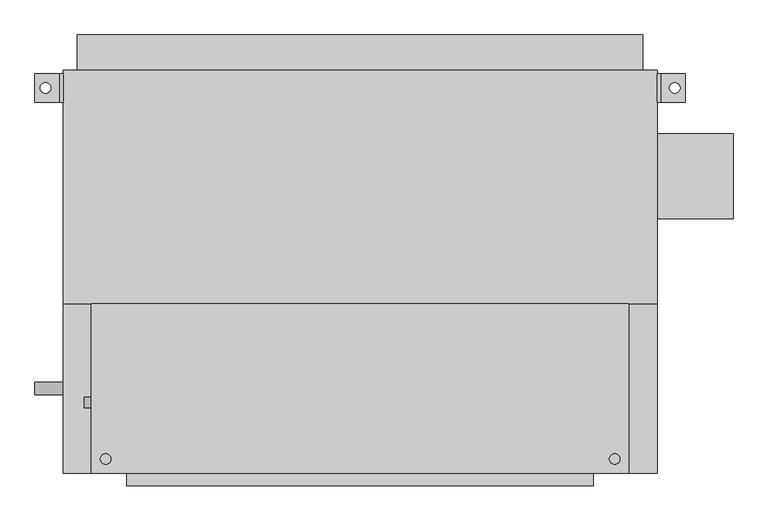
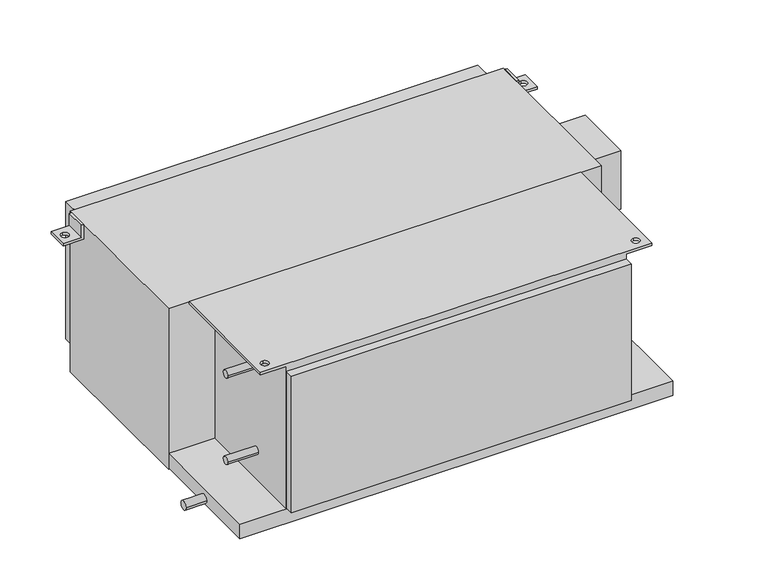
"""IFC4 building model written with IfcOpenShell, lengths in millimetres: proxy geometry, Concealed_High_Capacity_Horizontal_Fan_Coil_Unit_With_Plenum_-_42DCA_-_CARRIER_-_2-Pipe_Cool-EHeat_LH_2022 : Size 14 - 277v/60Hz/1Ph - 6 Row 10.0kW."""

from ifc_helpers import new_model, si_unit, point, frame, frame_2d, origin, place, context, project, spatial, polyline, circle_curve, trimmed, segment, composite_curve, outline, extrude, source, transform, mapped, element, save
from ifc_brep_helpers import plane_surface, revolved_surface, advanced_brep


def mechanical_equipment_c1538c46(model_context):
    return source(origin(), model_context, "Body", "SolidModel", [
        advanced_brep(
        [(-381.0, 327.025, -38.1), (-431.8, 327.025, -38.1), (-431.8, 327.025, -31.75), (-387.35, 327.025, -31.75), (-387.35, 327.025, 0.0), (-381.0, 327.025, 0.0), (-381.0, 276.225, -38.1), (-381.0, 276.225, 0.0), (-387.35, 276.225, 0.0), (-387.35, 276.225, -31.75), (-431.8, 276.225, -31.75), (-431.8, 276.225, -38.1), (-412.75, 292.1, -38.1), (-412.75, 311.15, -38.1), (-412.75, 311.15, -31.75), (-412.75, 292.1, -31.75)],
        [
            (0, 1),
            (1, 2),
            (2, 3),
            (3, 4),
            (4, 5),
            (5, 0),
            (6, 7),
            (7, 8),
            (8, 9),
            (9, 10),
            (10, 11),
            (11, 6),
            (0, 6),
            (11, 1),
            (12, 13, circle_curve(frame((-412.75, 301.625, -38.1), z_axis=(0.0, 0.0, 1.0), x_axis=(0.0, -1.0, 0.0)), 9.525)),
            (13, 12, circle_curve(frame((-412.75, 301.625, -38.1), z_axis=(0.0, 0.0, 1.0), x_axis=(0.0, -1.0, 0.0)), 9.525)),
            (10, 2),
            (9, 3),
            (14, 15, circle_curve(frame((-412.75, 301.625, -31.75), z_axis=(0.0, 0.0, -1.0), x_axis=(0.0, -1.0, 0.0)), 9.525)),
            (15, 14, circle_curve(frame((-412.75, 301.625, -31.75), z_axis=(0.0, 0.0, -1.0), x_axis=(0.0, -1.0, 0.0)), 9.525)),
            (8, 4),
            (7, 5),
            (14, 13),
            (12, 15),
        ],
        [
            plane_surface(frame((-381.0, 327.025, -38.1), z_axis=(0.0, 1.0, 0.0), x_axis=(-1.0, 0.0, 0.0))),
            plane_surface(frame((-381.0, 276.225, -38.1), z_axis=(0.0, -1.0, 0.0), x_axis=(1.0, 0.0, 0.0))),
            plane_surface(frame((-381.0, 327.025, -38.1), z_axis=(0.0, 0.0, -1.0), x_axis=(0.0, -1.0, 0.0))),
            plane_surface(frame((-431.8, 327.025, -38.1), z_axis=(-1.0, 0.0, 0.0), x_axis=(0.0, -1.0, 0.0))),
            plane_surface(frame((-431.8, 327.025, -31.75), z_axis=(0.0, 0.0, 1.0), x_axis=(0.0, -1.0, 0.0))),
            plane_surface(frame((-387.35, 327.025, -31.75), z_axis=(-1.0, 0.0, 0.0), x_axis=(0.0, -1.0, 0.0))),
            plane_surface(frame((-387.35, 327.025, 0.0), z_axis=(0.0, 0.0, 1.0), x_axis=(0.0, -1.0, 0.0))),
            plane_surface(frame((-381.0, 327.025, 0.0), z_axis=(1.0, 0.0, 0.0), x_axis=(0.0, -1.0, 0.0))),
            revolved_surface(polyline([(-412.75, 292.1, -38.1), (-412.75, 292.1, -31.75)]), (-412.75, 301.625, -31.75), (0.0, 0.0, -1.0)),
        ],
        [
            (0, [[1, 2, 3, 4, 5, 6]]),
            (1, [[7, 8, 9, 10, 11, 12]]),
            (2, [[-1, 13, -12, 14], [15, 16]]),
            (3, [[-2, -14, -11, 17]]),
            (4, [[-3, -17, -10, 18], [19, 20]]),
            (5, [[-4, -18, -9, 21]]),
            (6, [[-5, -21, -8, 22]]),
            (7, [[-6, -22, -7, -13]]),
            (8, [[23, -15, 24, -19]]),
            (8, [[-23, -20, -24, -16]]),
        ],
    ),
        advanced_brep(
        [(685.8, 327.025, -38.1), (685.8, 327.025, 0.0), (692.15, 327.025, 0.0), (692.15, 327.025, -31.75), (736.6, 327.025, -31.75), (736.6, 327.025, -38.1), (685.8, 276.225, -38.1), (736.6, 276.225, -38.1), (736.6, 276.225, -31.75), (692.15, 276.225, -31.75), (692.15, 276.225, 0.0), (685.8, 276.225, 0.0), (717.55, 311.15, -31.75), (717.55, 292.1, -31.75), (717.55, 292.1, -38.1), (717.55, 311.15, -38.1)],
        [
            (0, 1),
            (1, 2),
            (2, 3),
            (3, 4),
            (4, 5),
            (5, 0),
            (6, 7),
            (7, 8),
            (8, 9),
            (9, 10),
            (10, 11),
            (11, 6),
            (0, 6),
            (11, 1),
            (10, 2),
            (9, 3),
            (8, 4),
            (12, 13, circle_curve(frame((717.55, 301.625, -31.75), z_axis=(0.0, 0.0, -1.0), x_axis=(0.0, -1.0, 0.0)), 9.525)),
            (13, 12, circle_curve(frame((717.55, 301.625, -31.75), z_axis=(0.0, 0.0, -1.0), x_axis=(0.0, -1.0, 0.0)), 9.525)),
            (7, 5),
            (14, 15, circle_curve(frame((717.55, 301.625, -38.1), z_axis=(0.0, 0.0, 1.0), x_axis=(0.0, -1.0, 0.0)), 9.525)),
            (15, 14, circle_curve(frame((717.55, 301.625, -38.1), z_axis=(0.0, 0.0, 1.0), x_axis=(0.0, -1.0, 0.0)), 9.525)),
            (12, 15),
            (14, 13),
        ],
        [
            plane_surface(frame((-381.0, 327.025, -38.1), z_axis=(0.0, 1.0, 0.0), x_axis=(-1.0, 0.0, 0.0))),
            plane_surface(frame((-381.0, 276.225, -38.1), z_axis=(0.0, -1.0, 0.0), x_axis=(1.0, 0.0, 0.0))),
            plane_surface(frame((685.8, 327.025, -38.1), z_axis=(-1.0, 0.0, 0.0), x_axis=(0.0, -1.0, 0.0))),
            plane_surface(frame((685.8, 327.025, 0.0), z_axis=(0.0, 0.0, 1.0), x_axis=(0.0, -1.0, 0.0))),
            plane_surface(frame((692.15, 327.025, 0.0), z_axis=(1.0, 0.0, 0.0), x_axis=(0.0, -1.0, 0.0))),
            plane_surface(frame((692.15, 327.025, -31.75), z_axis=(0.0, 0.0, 1.0), x_axis=(0.0, -1.0, 0.0))),
            plane_surface(frame((736.6, 327.025, -31.75), z_axis=(1.0, 0.0, 0.0), x_axis=(0.0, -1.0, 0.0))),
            plane_surface(frame((736.6, 327.025, -38.1), z_axis=(0.0, 0.0, -1.0), x_axis=(0.0, -1.0, 0.0))),
            revolved_surface(polyline([(717.55, 292.1, -38.1), (717.55, 292.1, -31.75)]), (717.55, 301.625, -31.75), (0.0, 0.0, -1.0)),
        ],
        [
            (0, [[1, 2, 3, 4, 5, 6]]),
            (1, [[7, 8, 9, 10, 11, 12]]),
            (2, [[-1, 13, -12, 14]]),
            (3, [[-2, -14, -11, 15]]),
            (4, [[-3, -15, -10, 16]]),
            (5, [[-4, -16, -9, 17], [18, 19]]),
            (6, [[-5, -17, -8, 20]]),
            (7, [[-6, -20, -7, -13], [21, 22]]),
            (8, [[23, -21, 24, -18]]),
            (8, [[-23, -19, -24, -22]]),
        ],
    ),
        advanced_brep(
        [(-330.2, -85.725, -6.35), (-266.7, -85.725, -6.35), (-266.7, -390.525, -6.35), (-330.2, -390.525, -6.35), (-304.8, -355.6, -6.35), (-304.8, -374.65, -6.35), (635.0, -85.725, -6.35), (635.0, -390.525, -6.35), (571.5, -390.525, -6.35), (571.5, -85.725, -6.35), (609.6, -355.6, -6.35), (609.6, -374.65, -6.35), (-330.2, -85.725, 0.0), (-330.2, -390.525, 0.0), (635.0, -390.525, 0.0), (635.0, -85.725, 0.0), (-304.8, -374.65, 0.0), (-304.8, -355.6, 0.0), (609.6, -374.65, 0.0), (609.6, -355.6, 0.0), (-266.7, -390.525, -377.825), (571.5, -390.525, -377.825), (571.5, -85.725, -377.825), (-266.7, -85.725, -377.825)],
        [
            (0, 1),
            (1, 2),
            (2, 3),
            (3, 0),
            (4, 5, circle_curve(frame((-304.8, -365.125, -6.35), z_axis=(0.0, 0.0, 1.0), x_axis=(0.0, 1.0, 0.0)), 9.525)),
            (5, 4, circle_curve(frame((-304.8, -365.125, -6.35), z_axis=(0.0, 0.0, 1.0), x_axis=(0.0, 1.0, 0.0)), 9.525)),
            (6, 7),
            (7, 8),
            (8, 9),
            (9, 6),
            (10, 11, circle_curve(frame((609.6, -365.125, -6.35), z_axis=(0.0, 0.0, 1.0), x_axis=(0.0, 1.0, 0.0)), 9.525)),
            (11, 10, circle_curve(frame((609.6, -365.125, -6.35), z_axis=(0.0, 0.0, 1.0), x_axis=(0.0, 1.0, 0.0)), 9.525)),
            (12, 13),
            (13, 14),
            (14, 15),
            (15, 12),
            (16, 17, circle_curve(frame((-304.8, -365.125, 0.0), z_axis=(0.0, 0.0, -1.0), x_axis=(0.0, 1.0, 0.0)), 9.525)),
            (17, 16, circle_curve(frame((-304.8, -365.125, 0.0), z_axis=(0.0, 0.0, -1.0), x_axis=(0.0, 1.0, 0.0)), 9.525)),
            (18, 19, circle_curve(frame((609.6, -365.125, 0.0), z_axis=(0.0, 0.0, -1.0), x_axis=(0.0, 1.0, 0.0)), 9.525)),
            (19, 18, circle_curve(frame((609.6, -365.125, 0.0), z_axis=(0.0, 0.0, -1.0), x_axis=(0.0, 1.0, 0.0)), 9.525)),
            (3, 13),
            (12, 0),
            (2, 20),
            (20, 21),
            (21, 8),
            (7, 14),
            (15, 6),
            (9, 22),
            (22, 23),
            (23, 1),
            (22, 21),
            (20, 23),
            (16, 5),
            (4, 17),
            (18, 11),
            (10, 19),
        ],
        [
            plane_surface(frame((-330.2, -85.725, -6.35), z_axis=(0.0, 0.0, -1.0), x_axis=(0.0, 1.0, 0.0))),
            plane_surface(frame((-330.2, -85.725, 0.0), z_axis=(0.0, 0.0, 1.0), x_axis=(0.0, -1.0, 0.0))),
            plane_surface(frame((-330.2, -85.725, 0.0), z_axis=(-1.0, 0.0, 0.0), x_axis=(0.0, 0.0, -1.0))),
            plane_surface(frame((-330.2, -390.525, 0.0), z_axis=(0.0, -1.0, 0.0), x_axis=(0.0, 0.0, -1.0))),
            plane_surface(frame((-266.7, -85.725, 0.0), z_axis=(0.0, 1.0, 0.0), x_axis=(0.0, 0.0, -1.0))),
            plane_surface(frame((635.0, -390.525, 0.0), z_axis=(1.0, 0.0, 0.0), x_axis=(0.0, 0.0, -1.0))),
            plane_surface(frame((-266.7, -85.725, -377.825), z_axis=(0.0, 0.0, -1.0), x_axis=(1.0, 0.0, 0.0))),
            plane_surface(frame((-266.7, -85.725, 0.0), z_axis=(-1.0, 0.0, 0.0), x_axis=(0.0, 0.0, -1.0))),
            plane_surface(frame((571.5, -390.525, 0.0), z_axis=(1.0, 0.0, 0.0), x_axis=(0.0, 0.0, -1.0))),
            revolved_surface(polyline([(-304.8, -355.6, -6.35), (-304.8, -355.6, 0.0)]), (-304.8, -365.125, 0.0), (0.0, 0.0, -1.0)),
            revolved_surface(polyline([(609.6, -355.6, -6.35), (609.6, -355.6, 0.0)]), (609.6, -365.125, 0.0), (0.0, 0.0, -1.0)),
        ],
        [
            (0, [[1, 2, 3, 4], [5, 6]]),
            (0, [[7, 8, 9, 10], [11, 12]]),
            (1, [[13, 14, 15, 16], [17, 18], [19, 20]]),
            (2, [[-4, 21, -13, 22]]),
            (3, [[-3, 23, 24, 25, -8, 26, -14, -21]]),
            (4, [[-1, -22, -16, 27, -10, 28, 29, 30]]),
            (5, [[-7, -27, -15, -26]]),
            (6, [[31, -24, 32, -29]]),
            (7, [[-32, -23, -2, -30]]),
            (8, [[-31, -28, -9, -25]]),
            (9, [[33, -5, 34, -17]]),
            (9, [[-33, -18, -34, -6]]),
            (10, [[35, -11, 36, -19]]),
            (10, [[-35, -20, -36, -12]]),
        ],
    ),
        extrude(outline(polyline([(-355.6, 396.875), (660.4, 396.875), (660.4, 333.375), (-355.6, 333.375), (-355.6, 396.875)])), frame((0.0, 0.0, -381.0), z_axis=(0.0, 0.0, 1.0), x_axis=(1.0, 0.0, 0.0)), (0.0, 0.0, 1.0), 358.775),
        extrude(outline(composite_curve([segment(trimmed(circle_curve(frame_2d((-263.525, -76.2)), 9.525), [point((-273.05, -76.2))], [point((-254.0, -76.2))], False, "CARTESIAN"), True, "CONTINUOUS"), segment(trimmed(circle_curve(frame_2d((-263.525, -76.2)), 9.525), [point((-254.0, -76.2))], [point((-273.05, -76.2))], False, "CARTESIAN"), True, "CONTINUOUS")], self_intersect=False)), frame((-342.9, 0.0, 0.0), z_axis=(1.0, 0.0, 0.0), x_axis=(0.0, 1.0, 0.0)), (0.0, 0.0, 1.0), 76.2),
        extrude(outline(composite_curve([segment(trimmed(circle_curve(frame_2d((-263.525, -301.625)), 9.525), [point((-273.05, -301.625))], [point((-254.0, -301.625))], False, "CARTESIAN"), True, "CONTINUOUS"), segment(trimmed(circle_curve(frame_2d((-263.525, -301.625)), 9.525), [point((-254.0, -301.625))], [point((-273.05, -301.625))], False, "CARTESIAN"), True, "CONTINUOUS")], self_intersect=False)), frame((-342.9, 0.0, 0.0), z_axis=(1.0, 0.0, 0.0), x_axis=(0.0, 1.0, 0.0)), (0.0, 0.0, 1.0), 76.2),
        extrude(outline(composite_curve([segment(trimmed(circle_curve(frame_2d((-238.125, -403.225)), 11.1125), [point((-249.2375, -403.225))], [point((-227.0125, -403.225))], False, "CARTESIAN"), True, "CONTINUOUS"), segment(trimmed(circle_curve(frame_2d((-238.125, -403.225)), 11.1125), [point((-227.0125, -403.225))], [point((-249.2375, -403.225))], False, "CARTESIAN"), True, "CONTINUOUS")], self_intersect=False)), frame((-431.8, 0.0, 0.0), z_axis=(1.0, 0.0, 0.0), x_axis=(0.0, 1.0, 0.0)), (0.0, 0.0, 1.0), 50.8),
        extrude(outline(polyline([(822.325, 219.075), (822.325, 66.675), (685.8, 66.675), (685.8, 219.075), (822.325, 219.075)])), frame((0.0, 0.0, -254.0), z_axis=(0.0, 0.0, 1.0), x_axis=(1.0, 0.0, 0.0)), (0.0, 0.0, 1.0), 152.4),
        extrude(outline(polyline([(571.5, -412.75), (-266.7, -412.75), (-266.7, -390.525), (571.5, -390.525), (571.5, -412.75)])), frame((0.0, 0.0, -374.65), z_axis=(0.0, 0.0, 1.0), x_axis=(1.0, 0.0, 0.0)), (0.0, 0.0, 1.0), 355.6),
        extrude(outline(polyline([(685.8, -85.725), (-381.0, -85.725), (-381.0, 333.375), (685.8, 333.375), (685.8, -85.725)])), frame((0.0, 0.0, -419.1), z_axis=(0.0, 0.0, 1.0), x_axis=(1.0, 0.0, 0.0)), (0.0, 0.0, 1.0), 419.1),
        extrude(outline(polyline([(685.8, -85.725), (685.8, -390.525), (-381.0, -390.525), (-381.0, -85.725), (685.8, -85.725)])), frame((0.0, 0.0, -415.925), z_axis=(0.0, 0.0, 1.0), x_axis=(1.0, 0.0, 0.0)), (0.0, 0.0, 1.0), 38.1),
    ])


if __name__ == "__main__":
    model = new_model("IFC4")
    model_context = context("Model", 3, world=origin())
    ifc_project = project(units=[si_unit("LENGTHUNIT", "METRE", prefix="MILLI")], contexts=[model_context])
    site = spatial("IfcSite", under=ifc_project)
    building = spatial("IfcBuilding", under=site)
    placement = place(None, origin())
    mechanical_equipment_shape = mechanical_equipment_c1538c46(model_context)
    element("IfcBuildingElementProxy", 1, Name="Concealed_High_Capacity_Horizontal_Fan_Coil_Unit_With_Plenum_-_42DCA_-_CARRIER_-_2-Pipe_Cool-EHeat_LH_2022 : Size 14 - 277v/60Hz/1Ph - 6 Row 10.0kW", ObjectType="Concealed_High_Capacity_Horizontal_Fan_Coil_Unit_With_Plenum_-_42DCA_-_CARRIER_-_2-Pipe_Cool-EHeat_LH_2022 : Size 14 - 277v/60Hz/1Ph - 6 Row 10.0kW", at=placement, inside=building, context=model_context, shape_type="MappedRepresentation", body=[
        mapped(mechanical_equipment_shape, transform((0.0, 0.0, 0.0), x_axis=(1.0, 0.0, 0.0), y_axis=(0.0, 1.0, 0.0), z_axis=(0.0, 0.0, 1.0))),
    ])
    save(model, "model.ifc")
